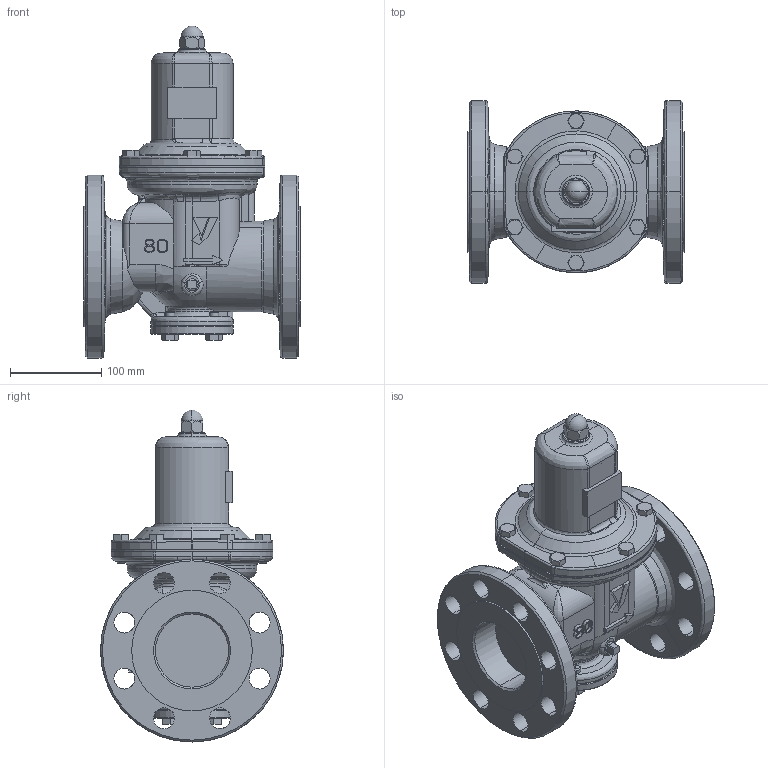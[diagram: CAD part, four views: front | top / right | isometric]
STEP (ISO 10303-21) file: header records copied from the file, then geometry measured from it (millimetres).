
FILE_DESCRIPTION( (''), '2;1');
FILE_NAME ('PC2091.11224.GD-29S-NE 80A_21327.stp','2026-03-26T17:16:26',(''),(''),'spGate 21.9.4 (****-****-****-****)','','');
FILE_SCHEMA (('AUTOMOTIVE_DESIGN'));
Length unit declared in the file: millimetre
Products named in the file (8): Assembly; 3D 弁箱20Ｋ; カバー　65A; 保護筒; ダイヤフラム65A; プラグ; CP_''_JIS B 1180 呼び径六角ボルト''_17166; CP_''_JIS B 1183 六角袋ナット 3形 M''_705
Assembly tree (17 placements, depth 2):
  Assembly
    3D 弁箱20Ｋ
    カバー　65A
    保護筒
    ダイヤフラム65A
    プラグ  x2
    CP_''_JIS B 1180 呼び径六角ボルト''_17166  x10
    CP_''_JIS B 1183 六角袋ナット 3形 M''_705
Bounding box: 237 x 200 x 363 mm (x, y, z)
Volume: 3598653.8 mm3; surface area: 504676.9 mm2
Topology: 17 solids, 17 shells, 844 faces, 2078 edges, 1276 vertices
Faces by surface type: bspline 364, plane 235, cylinder 234, sphere 11
Entity records: 41365 total; most frequent: CARTESIAN_POINT 16166, ORIENTED_EDGE 3150, COLOUR_RGB 2196, PRESENTATION_STYLE_ASSIGNMENT 2196, STYLED_ITEM 2196, DIRECTION 2099, EDGE_CURVE 1575, DRAUGHTING_PRE_DEFINED_CURVE_FONT 1575
